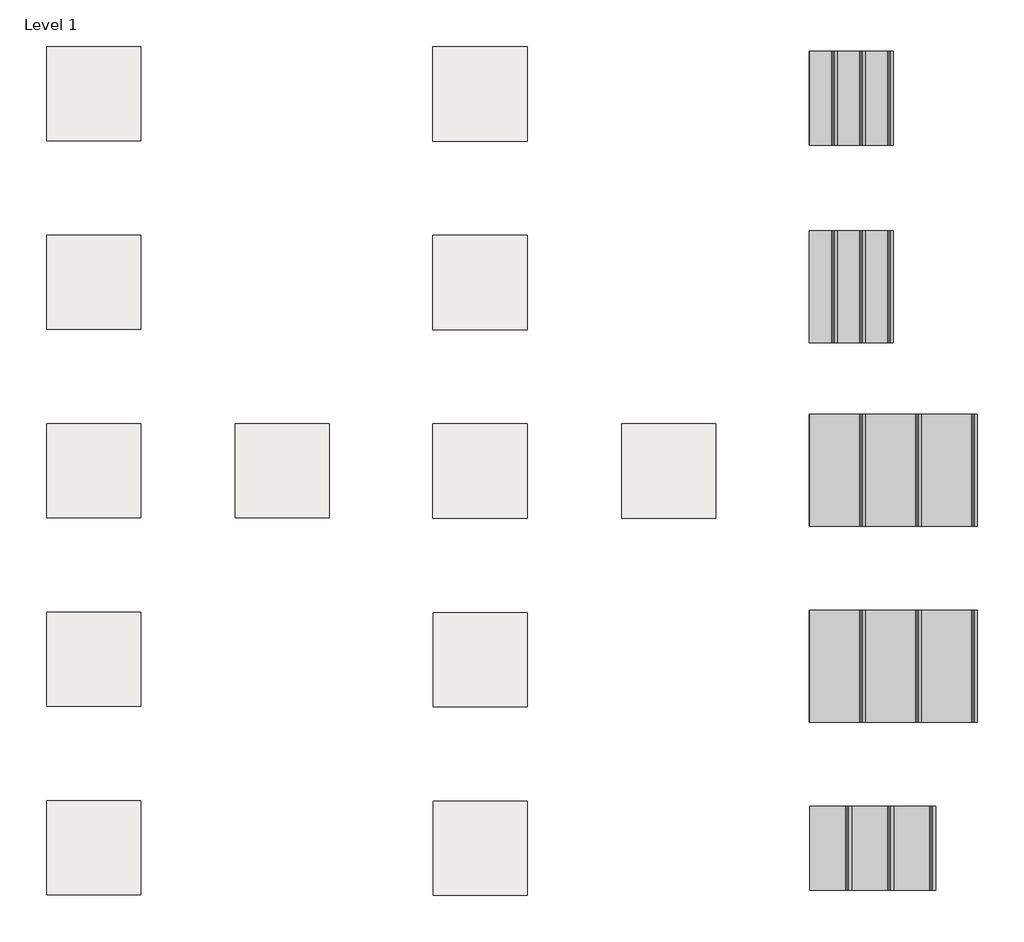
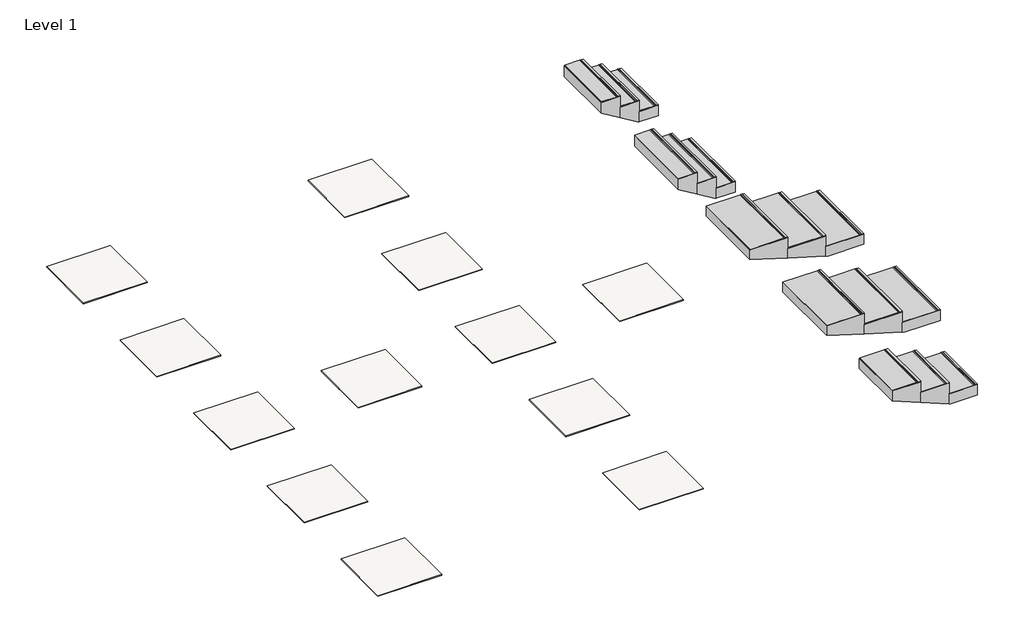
# One storey: 12 coverings, 5 stair flights.
"""IFC4 building model written with IfcOpenShell, lengths in millimetres."""

import ifcopenshell
import ifcopenshell.guid

model = None  # the IFC model being written
_history = None  # IfcOwnerHistory: only IFC2X3 demands one
_inside = {}  # id of a spatial element -> (the spatial element, [elements in it])
_under = {}  # id of a project, library or spatial element -> (it, [spatial elements below it])
_declared = {}  # id of a project -> (the project, [libraries it declares])
_typed = {}  # id of a type object -> (the type object, [elements of that type])
_made_of = {}  # id of a material, layer set ... -> (it, [elements and type objects made of it])


def new_model(schema):
    """Start an empty IFC model of exactly this schema.

    Asked for "IFC4X3", IfcOpenShell would pick the latest addendum, in which some entities
    have other attributes; the version numbers below select the first issue.
    IFC2X3 requires an IfcOwnerHistory on every rooted entity: one is made here for all.
    """
    global model, _history
    if schema == "IFC4X3":
        model = ifcopenshell.file(schema_version=(4, 3, 0, 0))
    else:
        model = ifcopenshell.file(schema=schema)
    _inside.clear()
    _under.clear()
    _declared.clear()
    _typed.clear()
    _made_of.clear()
    _history = None
    if model.schema == "IFC2X3":
        org = make("IfcOrganization", Name="unknown")
        user = make(
            "IfcPersonAndOrganization",
            ThePerson=make("IfcPerson", FamilyName="unknown"),
            TheOrganization=org,
        )
        app = make(
            "IfcApplication",
            ApplicationDeveloper=org,
            Version="unknown",
            ApplicationFullName="unknown",
            ApplicationIdentifier="unknown",
        )
        _history = make(
            "IfcOwnerHistory",
            OwningUser=user,
            OwningApplication=app,
            ChangeAction="ADDED",
            CreationDate=0,
        )
    return model


def make(cls, **values):
    """One entity of the class cls with the attributes given. An attribute that is None is left unset."""
    return model.create_entity(
        cls, **{name: value for name, value in values.items() if value is not None}
    )


def rooted(cls, **values):
    """An entity with a GlobalId (a new one), such as an element, a storey or a relation."""
    return make(cls, GlobalId=ifcopenshell.guid.new(), OwnerHistory=_history, **values)


def si_unit(unit_type, name, prefix=None):
    """IfcSIUnit, for example si_unit("LENGTHUNIT", "METRE", prefix="MILLI")."""
    return make("IfcSIUnit", UnitType=unit_type, Prefix=prefix, Name=name)


def assignment(units):
    """IfcUnitAssignment: the units of a project."""
    return None if units is None else make("IfcUnitAssignment", Units=units)


def point(xyz):
    """IfcCartesianPoint."""
    return None if xyz is None else make("IfcCartesianPoint", Coordinates=xyz)


def direction(xyz):
    """IfcDirection."""
    return None if xyz is None else make("IfcDirection", DirectionRatios=xyz)


def frame(location, z_axis=None, x_axis=None):
    """IfcAxis2Placement3D, a coordinate frame: its origin and axes. An axis left out is left unset."""
    return make(
        "IfcAxis2Placement3D",
        Location=point(location),
        Axis=direction(z_axis),
        RefDirection=direction(x_axis),
    )


def origin():
    """The frame at (0, 0, 0) with its axes left unset."""
    return frame((0.0, 0.0, 0.0))


def place(relative_to, where):
    """IfcLocalPlacement: puts the frame where relative to a parent placement (None: the world)."""
    return make(
        "IfcLocalPlacement", PlacementRelTo=relative_to, RelativePlacement=where
    )


def context(
    kind, dimensions, precision=None, world=None, true_north=None, identifier=None
):
    """IfcGeometricRepresentationContext, for example the 3D "Model" context."""
    return make(
        "IfcGeometricRepresentationContext",
        ContextIdentifier=identifier,
        ContextType=kind,
        CoordinateSpaceDimension=dimensions,
        Precision=precision,
        WorldCoordinateSystem=world,
        TrueNorth=true_north,
    )


def project(units=None, contexts=None):
    """IfcProject with its units and contexts."""
    return rooted(
        "IfcProject",
        Name="project",
        RepresentationContexts=contexts,
        UnitsInContext=assignment(units),
    )


def spatial(cls, under=None, at=None, **own):
    """A site, building, storey or space (cls), placed at a placement, below another one or the project."""
    s = rooted(cls, ObjectPlacement=at, **own)
    if under is not None:
        _under.setdefault(under.id(), (under, []))[1].append(s)
    return s


def polyline(points):
    """IfcPolyline through the points."""
    return make("IfcPolyline", Points=[point(p) for p in points])


def outline(outer, holes=None, kind="AREA"):
    """IfcArbitraryClosedProfileDef: a profile drawn as a closed curve; with holes, ...WithVoids."""
    if holes is None:
        return make("IfcArbitraryClosedProfileDef", ProfileType=kind, OuterCurve=outer)
    return make(
        "IfcArbitraryProfileDefWithVoids",
        ProfileType=kind,
        OuterCurve=outer,
        InnerCurves=holes,
    )


def extrude(swept, where, along, depth):
    """IfcExtrudedAreaSolid: the profile swept, set in the frame where, extruded along a direction by depth."""
    return make(
        "IfcExtrudedAreaSolid",
        SweptArea=swept,
        Position=where,
        ExtrudedDirection=direction(along),
        Depth=depth,
    )


def faces_of(points, faces, orient=None, outer=None):
    """IfcFace entities. A face is a list of loops; a loop is a list of indices into points, from 0.

    orient and outer hold one flag for each loop. By default every Orientation is true, the
    first loop of a face is its IfcFaceOuterBound and the others are IfcFaceBound.
    """
    made = []
    for i, loops in enumerate(faces):
        bounds = []
        for j, loop in enumerate(loops):
            is_outer = j == 0 if outer is None else outer[i][j]
            bounds.append(
                make(
                    "IfcFaceOuterBound" if is_outer else "IfcFaceBound",
                    Bound=make("IfcPolyLoop", Polygon=[points[k] for k in loop]),
                    Orientation=True if orient is None else orient[i][j],
                )
            )
        made.append(make("IfcFace", Bounds=bounds))
    return made


def faceted_brep(points, faces, orient=None, outer=None, voids=None):
    """IfcFacetedBrep: a solid bounded by flat faces; with voids (closed shells), ...WithVoids."""
    shared = [point(p) for p in points]
    hull = make("IfcClosedShell", CfsFaces=faces_of(shared, faces, orient, outer))
    if voids is None:
        return make("IfcFacetedBrep", Outer=hull)
    return make(
        "IfcFacetedBrepWithVoids",
        Outer=hull,
        Voids=[
            make(cls, CfsFaces=faces_of(shared, fs, o, b)) for cls, fs, o, b in voids
        ],
    )


def shape(context_of_items, identifier, shape_type, items):
    """IfcShapeRepresentation: the items that make up one representation, for example the "Body"."""
    return make(
        "IfcShapeRepresentation",
        ContextOfItems=context_of_items,
        RepresentationIdentifier=identifier,
        RepresentationType=shape_type,
        Items=items,
    )


def made_of(thing, what):
    """Note that an element or type object is made of a material, layer set ...; save() writes the relation."""
    if what is not None:
        _made_of.setdefault(what.id(), (what, []))[1].append(thing)
    return thing


def element(
    cls,
    number,
    at=None,
    inside=None,
    cuts=None,
    type_object=None,
    material=None,
    context=None,
    identifier="Body",
    shape_type=None,
    held_by="IfcProductDefinitionShape",
    body=None,
    shapes=None,
    **own,
):
    """One element of the class cls, such as IfcWall. Its Tag is "e" and its number.

    at: its placement. inside: the storey or other place that contains it. cuts: it is an
    opening in that element (IfcRelVoidsElement). A single representation is given by context,
    identifier, shape_type and body (its items); several are given by shapes. held_by: the class
    of the entity that holds the representations. save() writes the other relations.
    """
    e = rooted(cls, Tag="e%d" % number, ObjectPlacement=at, **own)
    if body is not None:
        shapes = [shape(context, identifier, shape_type, body)]
    if shapes is not None:
        e.Representation = make(held_by, Representations=shapes)
    if inside is not None:
        _inside.setdefault(inside.id(), (inside, []))[1].append(e)
    if cuts is not None:
        rooted(
            "IfcRelVoidsElement", RelatingBuildingElement=cuts, RelatedOpeningElement=e
        )
    if type_object is not None:
        _typed.setdefault(type_object.id(), (type_object, []))[1].append(e)
    return made_of(e, material)


def aggregate(whole, parts):
    """IfcRelAggregates: a whole, such as a stair, and the parts it consists of."""
    return rooted("IfcRelAggregates", RelatingObject=whole, RelatedObjects=parts)


def save(model, path):
    """Write the relations noted so far, then the file.

    IfcRelAggregates (storeys below a building ...), IfcRelContainedInSpatialStructure (elements
    in a storey), IfcRelDefinesByType, IfcRelAssociatesMaterial and IfcRelDeclares: one each for
    every whole, place, type object, material and project.
    """
    for whole, parts in _under.values():
        aggregate(whole, parts)
    for where, things in _inside.values():
        rooted(
            "IfcRelContainedInSpatialStructure",
            RelatedElements=things,
            RelatingStructure=where,
        )
    for kind, things in _typed.values():
        rooted("IfcRelDefinesByType", RelatedObjects=things, RelatingType=kind)
    for what, things in _made_of.values():
        rooted("IfcRelAssociatesMaterial", RelatedObjects=things, RelatingMaterial=what)
    for by, libraries in _declared.values():
        rooted("IfcRelDeclares", RelatingContext=by, RelatedDefinitions=libraries)
    model.write(path)


model = new_model("IFC4")

# Units and contexts
model_context = context("Model", 3, world=origin())
ifc_project = project(units=[si_unit("LENGTHUNIT", "METRE", prefix="MILLI")], contexts=[model_context])

# Site, building, storey
site = spatial("IfcSite", under=ifc_project)
building = spatial("IfcBuilding", under=site)
storey = spatial("IfcBuildingStorey", under=building, Name="Level 1", Elevation=0.0)

# Coverings
placement = place(None, origin())
element("IfcCovering", 1, ObjectType="REVIGRES-LIMESTONE-DG-29.5x59.2-RECT-MIST", at=placement, inside=storey, context=model_context, shape_type="SweptSolid", body=[
    extrude(outline(polyline([(-21020.6695597, -2669.0751037), (-22020.6695597, -2669.0751037), (-22020.6695597, -1669.0751037), (-21020.6695597, -1669.0751037), (-21020.6695597, -2669.0751037)])), frame((0.0, 0.0, -9.8), z_axis=(0.0, 0.0, 1.0), x_axis=(1.0, 0.0, 0.0)), (0.0, 0.0, 1.0), 9.8),
])
element("IfcCovering", 2, ObjectType="REVIGRES-LIMESTONE-DG-29.5x59.2-RECT-SAND", at=placement, inside=storey, context=model_context, shape_type="SweptSolid", body=[
    extrude(outline(polyline([(-16920.5445597, -2673.2001037), (-17920.7945597, -2673.2001037), (-17920.7945597, -1673.2001037), (-16920.5445597, -1673.2001037), (-16920.5445597, -2673.2001037)])), frame((0.0, 0.0, -9.8), z_axis=(0.0, 0.0, 1.0), x_axis=(1.0, 0.0, 0.0)), (0.0, 0.0, 1.0), 9.8),
])
element("IfcCovering", 3, ObjectType="REVIGRES-LIMESTONE-DG-59.2x59.2-RECT-MIST", at=placement, inside=storey, context=model_context, shape_type="SweptSolid", body=[
    extrude(outline(polyline([(-21020.6695597, -6669.0751037), (-22020.6695597, -6669.0751037), (-22020.6695597, -5669.0751037), (-21020.6695597, -5669.0751037), (-21020.6695597, -6669.0751037)])), frame((0.0, 0.0, -9.8), z_axis=(0.0, 0.0, 1.0), x_axis=(1.0, 0.0, 0.0)), (0.0, 0.0, 1.0), 9.8),
])
element("IfcCovering", 4, ObjectType="REVIGRES-LIMESTONE-DG-59.2x59.2-RECT-SAND", at=placement, inside=storey, context=model_context, shape_type="SweptSolid", body=[
    extrude(outline(polyline([(-16920.5445597, -6673.2001037), (-17920.7945597, -6673.2001037), (-17920.7945597, -5673.2001037), (-16920.5445597, -5673.2001037), (-16920.5445597, -6673.2001037)])), frame((0.0, 0.0, -9.8), z_axis=(0.0, 0.0, 1.0), x_axis=(1.0, 0.0, 0.0)), (0.0, 0.0, 1.0), 9.8),
])
element("IfcCovering", 5, ObjectType="REVIGRES-LIMESTONE-DG-59.2x118.6-RECT-MIST", at=placement, inside=storey, context=model_context, shape_type="SweptSolid", body=[
    extrude(outline(polyline([(-21020.6695597, -8669.0751037), (-22020.6695597, -8669.0751037), (-22020.6695597, -7669.0751037), (-21020.6695597, -7669.0751037), (-21020.6695597, -8669.0751037)])), frame((0.0, 0.0, -9.8), z_axis=(0.0, 0.0, 1.0), x_axis=(1.0, 0.0, 0.0)), (0.0, 0.0, 1.0), 9.8),
])
element("IfcCovering", 6, ObjectType="REVIGRES-LIMESTONE-DG-59.2x118.6-RECT-SAND", at=placement, inside=storey, context=model_context, shape_type="SweptSolid", body=[
    extrude(outline(polyline([(-16920.8695597, -8673.5251037), (-17920.4695597, -8673.5251037), (-17920.4695597, -7673.5251037), (-16920.8695597, -7673.5251037), (-16920.8695597, -8673.5251037)])), frame((0.0, 0.0, -9.8), z_axis=(0.0, 0.0, 1.0), x_axis=(1.0, 0.0, 0.0)), (0.0, 0.0, 1.0), 9.8),
])
element("IfcCovering", 7, ObjectType="REVIGRES-LIMESTONE-DG-44.35x88.9-RECT-MIST", at=placement, inside=storey, context=model_context, shape_type="SweptSolid", body=[
    extrude(outline(polyline([(-21020.6695597, -10669.0751037), (-22020.6695597, -10669.0751037), (-22020.6695597, -9669.0751037), (-21020.6695597, -9669.0751037), (-21020.6695597, -10669.0751037)])), frame((0.0, 0.0, -10.5), z_axis=(0.0, 0.0, 1.0), x_axis=(1.0, 0.0, 0.0)), (0.0, 0.0, 1.0), 10.5),
])
element("IfcCovering", 8, ObjectType="REVIGRES-LIMESTONE-DG-44.35x88.9-RECT-SAND", at=placement, inside=storey, context=model_context, shape_type="SweptSolid", body=[
    extrude(outline(polyline([(-16920.9945597, -10673.6501037), (-17920.3445597, -10673.6501037), (-17920.3445597, -9673.6501037), (-16920.9945597, -9673.6501037), (-16920.9945597, -10673.6501037)])), frame((0.0, 0.0, -10.5), z_axis=(0.0, 0.0, 1.0), x_axis=(1.0, 0.0, 0.0)), (0.0, 0.0, 1.0), 10.5),
])
element("IfcCovering", 9, ObjectType="REVIGRES-LIMESTONE-DG-59.2x59.2-ANTISLIPRECT-MIST", at=placement, inside=storey, context=model_context, shape_type="SweptSolid", body=[
    extrude(outline(polyline([(-19020.6695597, -6669.0751037), (-20020.6695597, -6669.0751037), (-20020.6695597, -5669.0751037), (-19020.6695597, -5669.0751037), (-19020.6695597, -6669.0751037)])), frame((0.0, 0.0, -9.8), z_axis=(0.0, 0.0, 1.0), x_axis=(1.0, 0.0, 0.0)), (0.0, 0.0, 1.0), 9.8),
])
element("IfcCovering", 10, ObjectType="REVIGRES-LIMESTONE-DG-59.2x59.2-ANTISLIPRECT-SAND", at=placement, inside=storey, context=model_context, shape_type="SweptSolid", body=[
    extrude(outline(polyline([(-14920.5445597, -6673.2001037), (-15920.7945597, -6673.2001037), (-15920.7945597, -5673.2001037), (-14920.5445597, -5673.2001037), (-14920.5445597, -6673.2001037)])), frame((0.0, 0.0, -9.8), z_axis=(0.0, 0.0, 1.0), x_axis=(1.0, 0.0, 0.0)), (0.0, 0.0, 1.0), 9.8),
])
element("IfcCovering", 11, ObjectType="REVIGRES-LIMESTONE-DG-29.5x118.6-RECT-MIST", at=placement, inside=storey, context=model_context, shape_type="SweptSolid", body=[
    extrude(outline(polyline([(-21020.6695597, -4669.0751037), (-22020.6695597, -4669.0751037), (-22020.6695597, -3669.0751037), (-21020.6695597, -3669.0751037), (-21020.6695597, -4669.0751037)])), frame((0.0, 0.0, -9.8), z_axis=(0.0, 0.0, 1.0), x_axis=(1.0, 0.0, 0.0)), (0.0, 0.0, 1.0), 9.8),
])
element("IfcCovering", 12, ObjectType="REVIGRES-LIMESTONE-DG-29.5x118.6-RECT-SAND", at=placement, inside=storey, context=model_context, shape_type="SweptSolid", body=[
    extrude(outline(polyline([(-16920.7945597, -4673.2001037), (-17920.7945597, -4673.2001037), (-17920.7945597, -3673.2001037), (-16920.7945597, -3673.2001037), (-16920.7945597, -4673.2001037)])), frame((0.0, 0.0, -9.8), z_axis=(0.0, 0.0, 1.0), x_axis=(1.0, 0.0, 0.0)), (0.0, 0.0, 1.0), 9.8),
])

# Stair flights
element("IfcStairFlight", 13, ObjectType="REVIGRES-LIMESTONE-DG-29.5X59.2", at=placement, inside=storey, context=model_context, shape_type="SolidModel", body=[
    faceted_brep([(-13332.6695597, -2718.5266988, 169.4941176), (-13035.6695597, -2718.5266988, 169.4941176), (-13035.6695597, -1718.5266988, 169.4941176), (-13332.6695597, -1718.5266988, 169.4941176), (-13332.6695597, -2718.5266988, 0.0), (-13035.6695597, -2718.5266988, 0.0), (-13035.6695597, -1718.5266988, 0.0), (-13332.6695597, -1718.5266988, 0.0), (-13629.6695597, -2718.5266988, 348.7882353), (-13332.6695597, -2718.5266988, 348.7882353), (-13332.6695597, -1718.5266988, 348.7882353), (-13629.6695597, -1718.5266988, 348.7882353), (-13629.6695597, -2718.5266988, 173.5747353), (-13342.1436941, -2718.5266988, 0.0), (-13342.1436941, -1718.5266988, 0.0), (-13629.6695597, -1718.5266988, 173.5747353), (-13926.6695597, -2718.5266988, 528.0823529), (-13629.6695597, -2718.5266988, 528.0823529), (-13629.6695597, -1718.5266988, 528.0823529), (-13926.6695597, -1718.5266988, 528.0823529), (-13926.6695597, -2718.5266988, 352.8688529), (-13926.6695597, -1718.5266988, 352.8688529)], [[[0, 1, 2, 3]], [[1, 0, 4, 5]], [[2, 1, 5, 6]], [[3, 2, 6, 7]], [[8, 9, 10, 11]], [[4, 0, 9, 8, 12, 13]], [[0, 3, 10, 9]], [[3, 7, 14, 15, 11, 10]], [[16, 17, 18, 19]], [[17, 16, 20, 12, 8]], [[8, 11, 18, 17]], [[19, 18, 11, 15, 21]], [[16, 19, 21, 20]], [[5, 4, 13, 14, 7, 6]], [[14, 13, 12, 20, 21, 15]]]),
    extrude(outline(polyline([(179.2941176, -13065.6695597), (178.2941176, -13065.6695597), (178.2941176, -13070.6695597), (179.2941176, -13070.6695597), (179.2941176, -13080.6695597), (178.2941176, -13080.6695597), (178.2941176, -13085.6695597), (179.2941176, -13085.6695597), (179.2941176, -13095.6695597), (178.2941176, -13095.6695597), (178.2941176, -13100.6695597), (179.2941176, -13100.6695597), (179.2941176, -13330.6695597), (170.7941176, -13330.6695597), (170.7941176, -13035.6695597), (179.2941176, -13035.6695597), (179.2941176, -13065.6695597)])), frame((0.0, -2718.5266988, 0.0), z_axis=(0.0, 1.0, 0.0), x_axis=(0.0, 0.0, 1.0)), (0.0, 0.0, 1.0), 1000.0),
    extrude(outline(polyline([(358.5882353, -13362.6695597), (357.5882353, -13362.6695597), (357.5882353, -13367.6695597), (358.5882353, -13367.6695597), (358.5882353, -13377.6695597), (357.5882353, -13377.6695597), (357.5882353, -13382.6695597), (358.5882353, -13382.6695597), (358.5882353, -13392.6695597), (357.5882353, -13392.6695597), (357.5882353, -13397.6695597), (358.5882353, -13397.6695597), (358.5882353, -13627.6695597), (350.0882353, -13627.6695597), (350.0882353, -13332.6695597), (358.5882353, -13332.6695597), (358.5882353, -13362.6695597)])), frame((0.0, -2718.5266988, 0.0), z_axis=(0.0, 1.0, 0.0), x_axis=(0.0, 0.0, 1.0)), (0.0, 0.0, 1.0), 1000.0),
    extrude(outline(polyline([(537.8823529, -13659.6695597), (536.8823529, -13659.6695597), (536.8823529, -13664.6695597), (537.8823529, -13664.6695597), (537.8823529, -13674.6695597), (536.8823529, -13674.6695597), (536.8823529, -13679.6695597), (537.8823529, -13679.6695597), (537.8823529, -13689.6695597), (536.8823529, -13689.6695597), (536.8823529, -13694.6695597), (537.8823529, -13694.6695597), (537.8823529, -13924.6695597), (529.3823529, -13924.6695597), (529.3823529, -13629.6695597), (537.8823529, -13629.6695597), (537.8823529, -13659.6695597)])), frame((0.0, -2718.5266988, 0.0), z_axis=(0.0, 1.0, 0.0), x_axis=(0.0, 0.0, 1.0)), (0.0, 0.0, 1.0), 1000.0),
])
element("IfcStairFlight", 14, ObjectType="REVIGRES-LIMESTONE-DG-44.35X88.9", at=placement, inside=storey, context=model_context, shape_type="SolidModel", body=[
    faceted_brep([(-13034.1695597, -10619.9604962, 169.4941176), (-12588.6695597, -10619.9604962, 169.4941176), (-12588.6695597, -9728.9604962, 169.4941176), (-13034.1695597, -9728.9604962, 169.4941176), (-13034.1695597, -10619.9604962, 7.8019951), (-13014.7835984, -10619.9604962, 0.0), (-12588.6695597, -10619.9604962, 0.0), (-12588.6695597, -9728.9604962, 0.0), (-13014.7835984, -9728.9604962, 0.0), (-13034.1695597, -9728.9604962, 7.8019951), (-13479.6695597, -10619.9604962, 348.7882353), (-13034.1695597, -10619.9604962, 348.7882353), (-13034.1695597, -9728.9604962, 348.7882353), (-13479.6695597, -9728.9604962, 348.7882353), (-13479.6695597, -10619.9604962, 187.0961128), (-13479.6695597, -9728.9604962, 187.0961128), (-13925.1695597, -10619.9604962, 528.0823529), (-13479.6695597, -10619.9604962, 528.0823529), (-13479.6695597, -9728.9604962, 528.0823529), (-13925.1695597, -9728.9604962, 528.0823529), (-13925.1695597, -10619.9604962, 366.3902304), (-13925.1695597, -9728.9604962, 366.3902304)], [[[0, 1, 2, 3]], [[1, 0, 4, 5, 6]], [[2, 1, 6, 7]], [[3, 2, 7, 8, 9]], [[10, 11, 12, 13]], [[11, 10, 14, 4, 0]], [[0, 3, 12, 11]], [[13, 12, 3, 9, 15]], [[16, 17, 18, 19]], [[17, 16, 20, 14, 10]], [[10, 13, 18, 17]], [[19, 18, 13, 15, 21]], [[16, 19, 21, 20]], [[7, 6, 5, 8]], [[8, 5, 4, 14, 20, 21, 15, 9]]]),
    extrude(outline(polyline([(179.2941176, -12618.6695597), (178.2941176, -12618.6695597), (178.2941176, -12623.6695597), (179.2941176, -12623.6695597), (179.2941176, -12633.6695597), (178.2941176, -12633.6695597), (178.2941176, -12638.6695597), (179.2941176, -12638.6695597), (179.2941176, -12648.6695597), (178.2941176, -12648.6695597), (178.2941176, -12653.6695597), (179.2941176, -12653.6695597), (179.2941176, -13032.1695597), (168.7941176, -13032.1695597), (168.7941176, -12588.6695597), (179.2941176, -12588.6695597), (179.2941176, -12618.6695597)])), frame((0.0, -10619.9604962, 0.0), z_axis=(0.0, 1.0, 0.0), x_axis=(0.0, 0.0, 1.0)), (0.0, 0.0, 1.0), 891.0),
    extrude(outline(polyline([(358.5882353, -13064.1695597), (357.5882353, -13064.1695597), (357.5882353, -13069.1695597), (358.5882353, -13069.1695597), (358.5882353, -13079.1695597), (357.5882353, -13079.1695597), (357.5882353, -13084.1695597), (358.5882353, -13084.1695597), (358.5882353, -13094.1695597), (357.5882353, -13094.1695597), (357.5882353, -13099.1695597), (358.5882353, -13099.1695597), (358.5882353, -13477.6695597), (348.0882353, -13477.6695597), (348.0882353, -13034.1695597), (358.5882353, -13034.1695597), (358.5882353, -13064.1695597)])), frame((0.0, -10619.9604962, 0.0), z_axis=(0.0, 1.0, 0.0), x_axis=(0.0, 0.0, 1.0)), (0.0, 0.0, 1.0), 891.0),
    extrude(outline(polyline([(537.8823529, -13509.6695597), (536.8823529, -13509.6695597), (536.8823529, -13514.6695597), (537.8823529, -13514.6695597), (537.8823529, -13524.6695597), (536.8823529, -13524.6695597), (536.8823529, -13529.6695597), (537.8823529, -13529.6695597), (537.8823529, -13539.6695597), (536.8823529, -13539.6695597), (536.8823529, -13544.6695597), (537.8823529, -13544.6695597), (537.8823529, -13923.1695597), (527.3823529, -13923.1695597), (527.3823529, -13479.6695597), (537.8823529, -13479.6695597), (537.8823529, -13509.6695597)])), frame((0.0, -10619.9604962, 0.0), z_axis=(0.0, 1.0, 0.0), x_axis=(0.0, 0.0, 1.0)), (0.0, 0.0, 1.0), 891.0),
])
element("IfcStairFlight", 15, ObjectType="REVIGRES-LIMESTONE-DG-59.2X59.2", at=placement, inside=storey, context=model_context, shape_type="SolidModel", body=[
    faceted_brep([(-12738.6695597, -6757.5896489, 168.7941176), (-12144.6695597, -6757.5896489, 168.7941176), (-12144.6695597, -5569.5896489, 168.7941176), (-12738.6695597, -5569.5896489, 168.7941176), (-12738.6695597, -6757.5896489, 12.1099045), (-12698.5495414, -6757.5896489, 0.0), (-12144.6695597, -6757.5896489, 0.0), (-12144.6695597, -5569.5896489, 0.0), (-12698.5495414, -5569.5896489, 0.0), (-12738.6695597, -5569.5896489, 12.1099045), (-13332.6695597, -6757.5896489, 348.0882353), (-12738.6695597, -6757.5896489, 348.0882353), (-12738.6695597, -5569.5896489, 348.0882353), (-13332.6695597, -5569.5896489, 348.0882353), (-13332.6695597, -6757.5896489, 191.4040222), (-13332.6695597, -5569.5896489, 191.4040222), (-13926.6695597, -6757.5896489, 527.3823529), (-13332.6695597, -6757.5896489, 527.3823529), (-13332.6695597, -5569.5896489, 527.3823529), (-13926.6695597, -5569.5896489, 527.3823529), (-13926.6695597, -6757.5896489, 370.6981398), (-13926.6695597, -5569.5896489, 370.6981398)], [[[0, 1, 2, 3]], [[1, 0, 4, 5, 6]], [[2, 1, 6, 7]], [[3, 2, 7, 8, 9]], [[10, 11, 12, 13]], [[11, 10, 14, 4, 0]], [[0, 3, 12, 11]], [[13, 12, 3, 9, 15]], [[16, 17, 18, 19]], [[17, 16, 20, 14, 10]], [[10, 13, 18, 17]], [[19, 18, 13, 15, 21]], [[16, 19, 21, 20]], [[7, 6, 5, 8]], [[8, 5, 4, 14, 20, 21, 15, 9]]]),
    extrude(outline(polyline([(179.2941176, -12174.6695597), (178.2941176, -12174.6695597), (178.2941176, -12179.6695597), (179.2941176, -12179.6695597), (179.2941176, -12189.6695597), (178.2941176, -12189.6695597), (178.2941176, -12194.6695597), (179.2941176, -12194.6695597), (179.2941176, -12204.6695597), (178.2941176, -12204.6695597), (178.2941176, -12209.6695597), (179.2941176, -12209.6695597), (179.2941176, -12736.6695597), (168.7941176, -12736.6695597), (168.7941176, -12144.6695597), (179.2941176, -12144.6695597), (179.2941176, -12174.6695597)])), frame((0.0, -6757.5896489, 0.0), z_axis=(0.0, 1.0, 0.0), x_axis=(0.0, 0.0, 1.0)), (0.0, 0.0, 1.0), 1188.0),
    extrude(outline(polyline([(358.5882353, -12768.6695597), (357.5882353, -12768.6695597), (357.5882353, -12773.6695597), (358.5882353, -12773.6695597), (358.5882353, -12783.6695597), (357.5882353, -12783.6695597), (357.5882353, -12788.6695597), (358.5882353, -12788.6695597), (358.5882353, -12798.6695597), (357.5882353, -12798.6695597), (357.5882353, -12803.6695597), (358.5882353, -12803.6695597), (358.5882353, -13330.6695597), (348.0882353, -13330.6695597), (348.0882353, -12738.6695597), (358.5882353, -12738.6695597), (358.5882353, -12768.6695597)])), frame((0.0, -6757.5896489, 0.0), z_axis=(0.0, 1.0, 0.0), x_axis=(0.0, 0.0, 1.0)), (0.0, 0.0, 1.0), 1188.0),
    extrude(outline(polyline([(537.8823529, -13362.6695597), (536.8823529, -13362.6695597), (536.8823529, -13367.6695597), (537.8823529, -13367.6695597), (537.8823529, -13377.6695597), (536.8823529, -13377.6695597), (536.8823529, -13382.6695597), (537.8823529, -13382.6695597), (537.8823529, -13392.6695597), (536.8823529, -13392.6695597), (536.8823529, -13397.6695597), (537.8823529, -13397.6695597), (537.8823529, -13924.6695597), (527.3823529, -13924.6695597), (527.3823529, -13332.6695597), (537.8823529, -13332.6695597), (537.8823529, -13362.6695597)])), frame((0.0, -6757.5896489, 0.0), z_axis=(0.0, 1.0, 0.0), x_axis=(0.0, 0.0, 1.0)), (0.0, 0.0, 1.0), 1188.0),
])
element("IfcStairFlight", 16, ObjectType="REVIGRES-LIMESTONE-DG-59.2X118.6", at=placement, inside=storey, context=model_context, shape_type="SolidModel", body=[
    faceted_brep([(-12738.6695597, -8838.863041, 168.7941176), (-12144.6695597, -8838.863041, 168.7941176), (-12144.6695597, -7650.863041, 168.7941176), (-12738.6695597, -7650.863041, 168.7941176), (-12738.6695597, -8838.863041, 12.1099045), (-12698.5495414, -8838.863041, 0.0), (-12144.6695597, -8838.863041, 0.0), (-12144.6695597, -7650.863041, 0.0), (-12698.5495414, -7650.863041, 0.0), (-12738.6695597, -7650.863041, 12.1099045), (-13332.6695597, -8838.863041, 348.0882353), (-12738.6695597, -8838.863041, 348.0882353), (-12738.6695597, -7650.863041, 348.0882353), (-13332.6695597, -7650.863041, 348.0882353), (-13332.6695597, -8838.863041, 191.4040222), (-13332.6695597, -7650.863041, 191.4040222), (-13926.6695597, -8838.863041, 527.3823529), (-13332.6695597, -8838.863041, 527.3823529), (-13332.6695597, -7650.863041, 527.3823529), (-13926.6695597, -7650.863041, 527.3823529), (-13926.6695597, -8838.863041, 370.6981398), (-13926.6695597, -7650.863041, 370.6981398)], [[[0, 1, 2, 3]], [[1, 0, 4, 5, 6]], [[2, 1, 6, 7]], [[3, 2, 7, 8, 9]], [[10, 11, 12, 13]], [[11, 10, 14, 4, 0]], [[0, 3, 12, 11]], [[13, 12, 3, 9, 15]], [[16, 17, 18, 19]], [[17, 16, 20, 14, 10]], [[10, 13, 18, 17]], [[19, 18, 13, 15, 21]], [[16, 19, 21, 20]], [[7, 6, 5, 8]], [[8, 5, 4, 14, 20, 21, 15, 9]]]),
    extrude(outline(polyline([(179.2941176, -12174.6695597), (178.2941176, -12174.6695597), (178.2941176, -12179.6695597), (179.2941176, -12179.6695597), (179.2941176, -12189.6695597), (178.2941176, -12189.6695597), (178.2941176, -12194.6695597), (179.2941176, -12194.6695597), (179.2941176, -12204.6695597), (178.2941176, -12204.6695597), (178.2941176, -12209.6695597), (179.2941176, -12209.6695597), (179.2941176, -12736.6695597), (169.4941176, -12736.6695597), (169.4941176, -12144.6695597), (179.2941176, -12144.6695597), (179.2941176, -12174.6695597)])), frame((0.0, -8838.863041, 0.0), z_axis=(0.0, 1.0, 0.0), x_axis=(0.0, 0.0, 1.0)), (0.0, 0.0, 1.0), 1188.0),
    extrude(outline(polyline([(358.5882353, -12768.6695597), (357.5882353, -12768.6695597), (357.5882353, -12773.6695597), (358.5882353, -12773.6695597), (358.5882353, -12783.6695597), (357.5882353, -12783.6695597), (357.5882353, -12788.6695597), (358.5882353, -12788.6695597), (358.5882353, -12798.6695597), (357.5882353, -12798.6695597), (357.5882353, -12803.6695597), (358.5882353, -12803.6695597), (358.5882353, -13330.6695597), (348.7882353, -13330.6695597), (348.7882353, -12738.6695597), (358.5882353, -12738.6695597), (358.5882353, -12768.6695597)])), frame((0.0, -8838.863041, 0.0), z_axis=(0.0, 1.0, 0.0), x_axis=(0.0, 0.0, 1.0)), (0.0, 0.0, 1.0), 1188.0),
    extrude(outline(polyline([(537.8823529, -13362.6695597), (536.8823529, -13362.6695597), (536.8823529, -13367.6695597), (537.8823529, -13367.6695597), (537.8823529, -13377.6695597), (536.8823529, -13377.6695597), (536.8823529, -13382.6695597), (537.8823529, -13382.6695597), (537.8823529, -13392.6695597), (536.8823529, -13392.6695597), (536.8823529, -13397.6695597), (537.8823529, -13397.6695597), (537.8823529, -13924.6695597), (528.0823529, -13924.6695597), (528.0823529, -13332.6695597), (537.8823529, -13332.6695597), (537.8823529, -13362.6695597)])), frame((0.0, -8838.863041, 0.0), z_axis=(0.0, 1.0, 0.0), x_axis=(0.0, 0.0, 1.0)), (0.0, 0.0, 1.0), 1188.0),
])
element("IfcStairFlight", 17, ObjectType="REVIGRES-LIMESTONE-DG-29.5X118.6", at=placement, inside=storey, context=model_context, shape_type="SolidModel", body=[
    faceted_brep([(-13332.6695597, -4812.5266988, 169.4941176), (-13035.6695597, -4812.5266988, 169.4941176), (-13035.6695597, -3624.5266988, 169.4941176), (-13332.6695597, -3624.5266988, 169.4941176), (-13332.6695597, -4812.5266988, 0.0), (-13035.6695597, -4812.5266988, 0.0), (-13035.6695597, -3624.5266988, 0.0), (-13332.6695597, -3624.5266988, 0.0), (-13629.6695597, -4812.5266988, 348.7882353), (-13332.6695597, -4812.5266988, 348.7882353), (-13332.6695597, -3624.5266988, 348.7882353), (-13629.6695597, -3624.5266988, 348.7882353), (-13629.6695597, -4812.5266988, 173.5747353), (-13342.1436941, -4812.5266988, 0.0), (-13342.1436941, -3624.5266988, 0.0), (-13629.6695597, -3624.5266988, 173.5747353), (-13926.6695597, -4812.5266988, 528.0823529), (-13629.6695597, -4812.5266988, 528.0823529), (-13629.6695597, -3624.5266988, 528.0823529), (-13926.6695597, -3624.5266988, 528.0823529), (-13926.6695597, -4812.5266988, 352.8688529), (-13926.6695597, -3624.5266988, 352.8688529)], [[[0, 1, 2, 3]], [[1, 0, 4, 5]], [[2, 1, 5, 6]], [[3, 2, 6, 7]], [[8, 9, 10, 11]], [[4, 0, 9, 8, 12, 13]], [[0, 3, 10, 9]], [[3, 7, 14, 15, 11, 10]], [[16, 17, 18, 19]], [[17, 16, 20, 12, 8]], [[8, 11, 18, 17]], [[19, 18, 11, 15, 21]], [[16, 19, 21, 20]], [[5, 4, 13, 14, 7, 6]], [[14, 13, 12, 20, 21, 15]]]),
    extrude(outline(polyline([(179.2941176, -13065.6695597), (178.2941176, -13065.6695597), (178.2941176, -13070.6695597), (179.2941176, -13070.6695597), (179.2941176, -13080.6695597), (178.2941176, -13080.6695597), (178.2941176, -13085.6695597), (179.2941176, -13085.6695597), (179.2941176, -13095.6695597), (178.2941176, -13095.6695597), (178.2941176, -13100.6695597), (179.2941176, -13100.6695597), (179.2941176, -13332.6695597), (169.4941176, -13332.6695597), (169.4941176, -13035.6695597), (179.2941176, -13035.6695597), (179.2941176, -13065.6695597)])), frame((0.0, -4812.5266988, 0.0), z_axis=(0.0, 1.0, 0.0), x_axis=(0.0, 0.0, 1.0)), (0.0, 0.0, 1.0), 1188.0),
    extrude(outline(polyline([(358.5882353, -13362.6695597), (357.5882353, -13362.6695597), (357.5882353, -13367.6695597), (358.5882353, -13367.6695597), (358.5882353, -13377.6695597), (357.5882353, -13377.6695597), (357.5882353, -13382.6695597), (358.5882353, -13382.6695597), (358.5882353, -13392.6695597), (357.5882353, -13392.6695597), (357.5882353, -13397.6695597), (358.5882353, -13397.6695597), (358.5882353, -13629.6695597), (348.7882353, -13629.6695597), (348.7882353, -13332.6695597), (358.5882353, -13332.6695597), (358.5882353, -13362.6695597)])), frame((0.0, -4812.5266988, 0.0), z_axis=(0.0, 1.0, 0.0), x_axis=(0.0, 0.0, 1.0)), (0.0, 0.0, 1.0), 1188.0),
    extrude(outline(polyline([(537.8823529, -13659.6695597), (536.8823529, -13659.6695597), (536.8823529, -13664.6695597), (537.8823529, -13664.6695597), (537.8823529, -13674.6695597), (536.8823529, -13674.6695597), (536.8823529, -13679.6695597), (537.8823529, -13679.6695597), (537.8823529, -13689.6695597), (536.8823529, -13689.6695597), (536.8823529, -13694.6695597), (537.8823529, -13694.6695597), (537.8823529, -13926.6695597), (528.0823529, -13926.6695597), (528.0823529, -13629.6695597), (537.8823529, -13629.6695597), (537.8823529, -13659.6695597)])), frame((0.0, -4812.5266988, 0.0), z_axis=(0.0, 1.0, 0.0), x_axis=(0.0, 0.0, 1.0)), (0.0, 0.0, 1.0), 1188.0),
])

save(model, "model.ifc")
